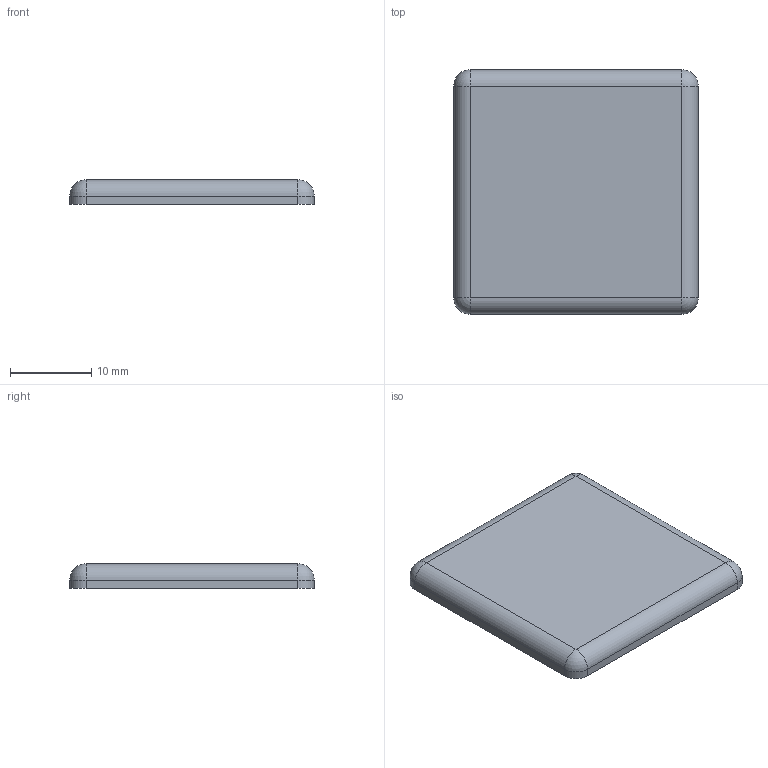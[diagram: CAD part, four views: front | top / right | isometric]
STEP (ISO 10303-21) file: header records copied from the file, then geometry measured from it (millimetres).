
FILE_DESCRIPTION( ( 'Unknown' ), '1' );
FILE_NAME( 'C:/Users/Fabrizio/Desktop/DISEGNI ACCESSORI FP SOLIDEDGE/CA.02.03.003.stp', 'Unknown', ( 'Unknown' ), ( 'Unknown' ), 'PSStep 13.0', 'Unknown', ' ' );
FILE_SCHEMA( ( 'AUTOMOTIVE_DESIGN { 1 0 10303 214 1 1 1 1 }' ) );
Length unit declared in the file: millimetre
Products named in the file (1): 1
Bounding box: 30 x 30 x 3 mm (x, y, z)
Volume: 2592 mm3; surface area: 2041 mm2
Topology: 1 solids, 1 shells, 18 faces, 40 edges, 20 vertices
Faces by surface type: cylinder 8, plane 6, sphere 4
Entity records: 800 total; most frequent: DIRECTION 90, CARTESIAN_POINT 75, ORIENTED_EDGE 72, STYLED_ITEM 54, PRESENTATION_STYLE_ASSIGNMENT 54, COLOUR_RGB 54, EDGE_CURVE 36, CURVE_STYLE 36
